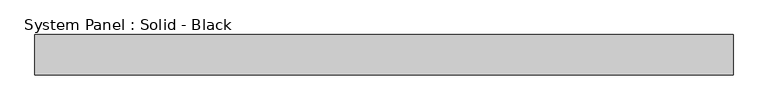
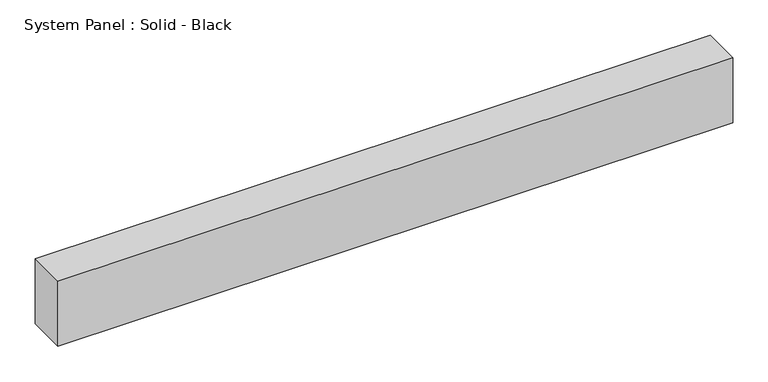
"""IFC4 building model written with IfcOpenShell, lengths in millimetres: plate geometry, System Panel : Solid - Black."""

from ifc_helpers import new_model, si_unit, origin, origin_with_axes, place, context, project, spatial, polyline, outline, extrude, source, transform, mapped, element, save


def system_panel_solid_black_a80956d3(model_context):
    return source(origin(), model_context, "Body", "SweptSolid", [
        extrude(outline(polyline([(551.18, -19.05), (-551.18, -19.05), (-551.18, 44.45), (551.18, 44.45), (551.18, -19.05)])), origin_with_axes(), (0.0, 0.0, 1.0), 112.476362),
    ])


if __name__ == "__main__":
    model = new_model("IFC4")
    model_context = context("Model", 3, world=origin())
    ifc_project = project(units=[si_unit("LENGTHUNIT", "METRE", prefix="MILLI")], contexts=[model_context])
    site = spatial("IfcSite", under=ifc_project)
    building = spatial("IfcBuilding", under=site)
    placement = place(None, origin())
    system_panel_solid_black_shape = system_panel_solid_black_a80956d3(model_context)
    element("IfcPlate", 1, ObjectType="System Panel : Solid - Black", at=placement, inside=building, context=model_context, shape_type="MappedRepresentation", body=[
        mapped(system_panel_solid_black_shape, transform((0.0, 0.0, 0.0), x_axis=(1.0, 0.0, 0.0), y_axis=(0.0, 1.0, 0.0), z_axis=(0.0, 0.0, 1.0))),
    ])
    save(model, "model.ifc")
